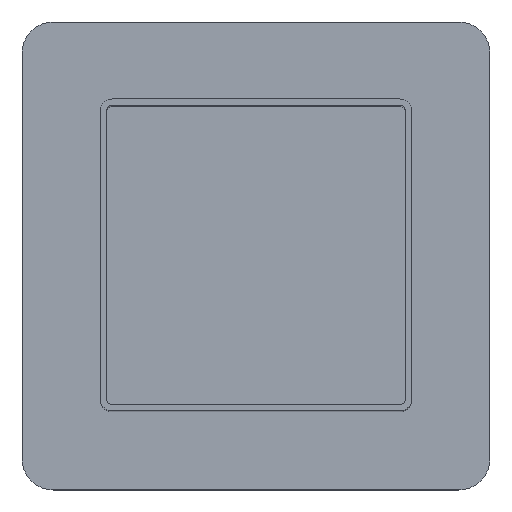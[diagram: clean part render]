
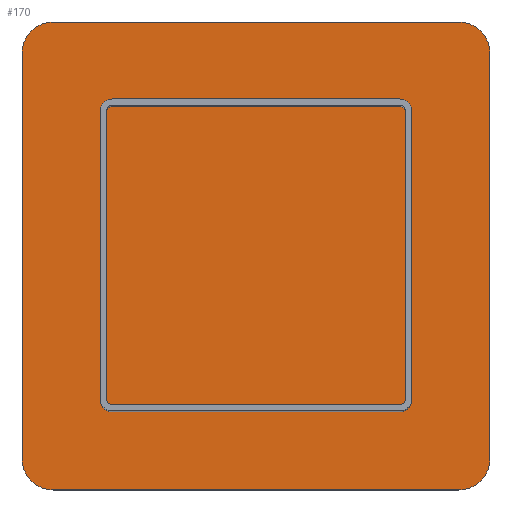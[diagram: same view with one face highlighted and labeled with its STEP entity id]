
A CAD part, top view. The second image highlights one B-rep face of the part: STEP entity #170.
In plain terms, the highlighted planar face has unit normal (0, 0, 1).
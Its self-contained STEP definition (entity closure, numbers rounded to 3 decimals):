
#170=ADVANCED_FACE('',(#252),#254,.T.);
#252=FACE_BOUND('',#253,.T.);
#253=EDGE_LOOP('',(#506,#507,#508,#509,#510,#511,#512,#513));
#254=PLANE('',#255);
#255=AXIS2_PLACEMENT_3D('',#256,#257,#258);
#256=CARTESIAN_POINT('',(0.,0.,0.));
#257=DIRECTION('',(0.,0.,1.));
#258=DIRECTION('',(-1.,0.,0.));
#506=ORIENTED_EDGE('',*,*,#644,.T.);
#507=ORIENTED_EDGE('',*,*,#648,.T.);
#508=ORIENTED_EDGE('',*,*,#651,.T.);
#509=ORIENTED_EDGE('',*,*,#654,.T.);
#510=ORIENTED_EDGE('',*,*,#657,.T.);
#511=ORIENTED_EDGE('',*,*,#660,.T.);
#512=ORIENTED_EDGE('',*,*,#663,.T.);
#513=ORIENTED_EDGE('',*,*,#665,.T.);
#644=EDGE_CURVE('',#731,#729,#732,.T.);
#648=EDGE_CURVE('',#729,#736,#738,.T.);
#651=EDGE_CURVE('',#736,#741,#743,.T.);
#654=EDGE_CURVE('',#741,#746,#748,.T.);
#657=EDGE_CURVE('',#746,#751,#753,.T.);
#660=EDGE_CURVE('',#751,#756,#758,.T.);
#663=EDGE_CURVE('',#756,#761,#763,.T.);
#665=EDGE_CURVE('',#761,#731,#765,.T.);
#729=VERTEX_POINT('',#875);
#731=VERTEX_POINT('',#879);
#732=LINE('',#880,#881);
#736=VERTEX_POINT('',#891);
#738=CIRCLE('',#895,10.);
#741=VERTEX_POINT('',#903);
#743=LINE('',#907,#908);
#746=VERTEX_POINT('',#915);
#748=CIRCLE('',#919,10.);
#751=VERTEX_POINT('',#927);
#753=LINE('',#931,#932);
#756=VERTEX_POINT('',#939);
#758=CIRCLE('',#943,10.);
#761=VERTEX_POINT('',#951);
#763=LINE('',#955,#956);
#765=CIRCLE('',#962,10.);
#875=CARTESIAN_POINT('',(65.,-75.,0.));
#879=CARTESIAN_POINT('',(-65.,-75.,0.));
#880=CARTESIAN_POINT('',(-65.,-75.,0.));
#881=VECTOR('',#882,1.);
#882=DIRECTION('',(1.,0.,0.));
#891=CARTESIAN_POINT('',(75.,-65.,0.));
#895=AXIS2_PLACEMENT_3D('',#896,#897,#898);
#896=CARTESIAN_POINT('',(65.,-65.,0.));
#897=DIRECTION('',(0.,0.,1.));
#898=DIRECTION('',(0.,-1.,0.));
#903=CARTESIAN_POINT('',(75.,65.,0.));
#907=CARTESIAN_POINT('',(75.,-65.,0.));
#908=VECTOR('',#909,1.);
#909=DIRECTION('',(0.,1.,0.));
#915=CARTESIAN_POINT('',(65.,75.,0.));
#919=AXIS2_PLACEMENT_3D('',#920,#921,#922);
#920=CARTESIAN_POINT('',(65.,65.,0.));
#921=DIRECTION('',(0.,0.,1.));
#922=DIRECTION('',(1.,0.,0.));
#927=CARTESIAN_POINT('',(-65.,75.,0.));
#931=CARTESIAN_POINT('',(65.,75.,0.));
#932=VECTOR('',#933,1.);
#933=DIRECTION('',(-1.,0.,0.));
#939=CARTESIAN_POINT('',(-75.,65.,0.));
#943=AXIS2_PLACEMENT_3D('',#944,#945,#946);
#944=CARTESIAN_POINT('',(-65.,65.,0.));
#945=DIRECTION('',(0.,0.,1.));
#946=DIRECTION('',(0.,1.,0.));
#951=CARTESIAN_POINT('',(-75.,-65.,0.));
#955=CARTESIAN_POINT('',(-75.,65.,0.));
#956=VECTOR('',#957,1.);
#957=DIRECTION('',(0.,-1.,0.));
#962=AXIS2_PLACEMENT_3D('',#963,#964,#965);
#963=CARTESIAN_POINT('',(-65.,-65.,0.));
#964=DIRECTION('',(0.,0.,1.));
#965=DIRECTION('',(-1.,0.,0.));
